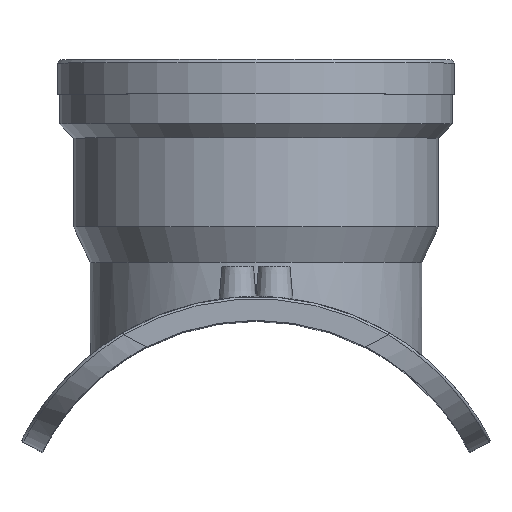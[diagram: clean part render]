
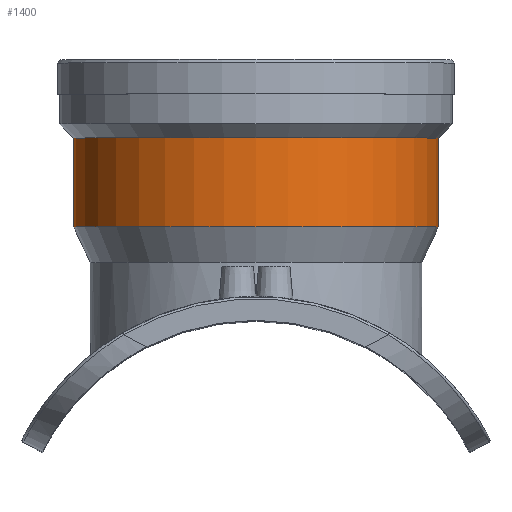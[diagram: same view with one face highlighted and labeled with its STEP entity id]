
A CAD part, top view. The second image highlights one B-rep face of the part: STEP entity #1400.
In plain terms, the highlighted cylindrical face has radius 87.273 mm (diameter 174.546 mm), a full revolution.
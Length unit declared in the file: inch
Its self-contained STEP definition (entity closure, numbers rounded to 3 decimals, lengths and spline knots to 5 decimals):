
#157=FACE_OUTER_BOUND('',#249,.T.);
#249=EDGE_LOOP('',(#1265,#1266,#1267,#1268,#1269,#1270));
#334=CIRCLE('',#1579,3.43594);
#335=CIRCLE('',#1580,3.43594);
#336=CIRCLE('',#1582,3.43594);
#337=CIRCLE('',#1583,3.43594);
#409=LINE('',#3502,#479);
#479=VECTOR('',#1980,3.43594);
#655=VERTEX_POINT('',#3492);
#656=VERTEX_POINT('',#3493);
#657=VERTEX_POINT('',#3498);
#658=VERTEX_POINT('',#3499);
#859=EDGE_CURVE('',#655,#656,#334,.T.);
#860=EDGE_CURVE('',#656,#655,#335,.T.);
#862=EDGE_CURVE('',#657,#658,#336,.T.);
#863=EDGE_CURVE('',#658,#657,#337,.T.);
#864=EDGE_CURVE('',#658,#656,#409,.T.);
#1265=ORIENTED_EDGE('',*,*,#862,.F.);
#1266=ORIENTED_EDGE('',*,*,#863,.F.);
#1267=ORIENTED_EDGE('',*,*,#864,.T.);
#1268=ORIENTED_EDGE('',*,*,#860,.T.);
#1269=ORIENTED_EDGE('',*,*,#859,.T.);
#1270=ORIENTED_EDGE('',*,*,#864,.F.);
#1319=CYLINDRICAL_SURFACE('',#1581,3.43594);
#1400=ADVANCED_FACE('',(#157),#1319,.T.);
#1579=AXIS2_PLACEMENT_3D('',#3494,#1969,#1970);
#1580=AXIS2_PLACEMENT_3D('',#3495,#1971,#1972);
#1581=AXIS2_PLACEMENT_3D('',#3497,#1974,#1975);
#1582=AXIS2_PLACEMENT_3D('',#3500,#1976,#1977);
#1583=AXIS2_PLACEMENT_3D('',#3501,#1978,#1979);
#1969=DIRECTION('center_axis',(0.,1.,0.));
#1970=DIRECTION('ref_axis',(1.,0.,0.));
#1971=DIRECTION('center_axis',(0.,1.,0.));
#1972=DIRECTION('ref_axis',(1.,0.,0.));
#1974=DIRECTION('center_axis',(0.,1.,0.));
#1975=DIRECTION('ref_axis',(0.,0.,1.));
#1976=DIRECTION('center_axis',(0.,1.,0.));
#1977=DIRECTION('ref_axis',(1.,0.,0.));
#1978=DIRECTION('center_axis',(0.,1.,0.));
#1979=DIRECTION('ref_axis',(1.,0.,0.));
#1980=DIRECTION('',(0.,-1.,0.));
#3492=CARTESIAN_POINT('',(0.,6.27591,3.43594));
#3493=CARTESIAN_POINT('',(0.,6.27591,-3.43594));
#3494=CARTESIAN_POINT('Origin',(0.,6.27591,0.));
#3495=CARTESIAN_POINT('Origin',(0.,6.27591,0.));
#3497=CARTESIAN_POINT('Origin',(0.,7.11291,0.));
#3498=CARTESIAN_POINT('',(0.,7.94991,3.43594));
#3499=CARTESIAN_POINT('',(0.,7.94991,-3.43594));
#3500=CARTESIAN_POINT('Origin',(0.,7.94991,0.));
#3501=CARTESIAN_POINT('Origin',(0.,7.94991,0.));
#3502=CARTESIAN_POINT('',(0.,7.11291,-3.43594));
